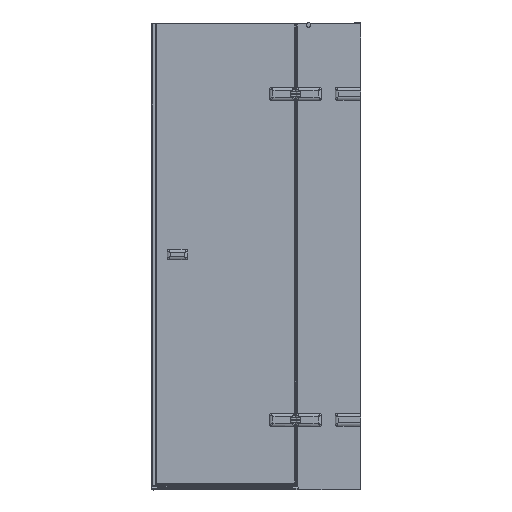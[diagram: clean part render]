
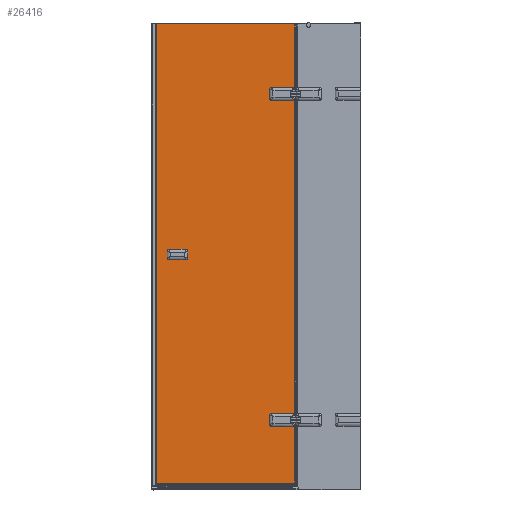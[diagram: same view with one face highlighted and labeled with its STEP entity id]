
A CAD part, front view. The second image highlights one B-rep face of the part: STEP entity #26416.
In plain terms, the highlighted planar face has unit normal (0, -1, 0).
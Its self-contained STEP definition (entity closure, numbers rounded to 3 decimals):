
#1628=PLANE($,#28638);
#2932=FACE_OUTER_BOUND($,#4538,.T.);
#4538=EDGE_LOOP($,(#22092,#22093,#22094,#22095,#22096,#22097,#22098,#22099,
#22100,#22101,#22102,#22103,#22104,#22105,#22106,#22107,#22108,#22109,#22110,
#22111));
#5093=CIRCLE($,#27224,5.);
#5130=CIRCLE($,#27299,5.);
#5132=CIRCLE($,#27303,5.);
#5134=CIRCLE($,#27307,5.);
#5262=CIRCLE($,#27658,5.);
#5263=CIRCLE($,#27660,5.);
#5303=CIRCLE($,#27739,5.);
#5305=CIRCLE($,#27743,5.);
#6219=LINE($,#52695,#8477);
#6223=LINE($,#52707,#8481);
#6227=LINE($,#52718,#8485);
#6300=LINE($,#53368,#8558);
#6666=LINE($,#54816,#8924);
#6670=LINE($,#54828,#8928);
#6674=LINE($,#54839,#8932);
#7305=LINE($,#58869,#9563);
#7595=LINE($,#59906,#9853);
#7640=LINE($,#60038,#9898);
#7697=LINE($,#60246,#9955);
#7698=LINE($,#60247,#9956);
#8477=VECTOR($,#30713,96.);
#8481=VECTOR($,#30725,42.);
#8485=VECTOR($,#30737,96.);
#8558=VECTOR($,#31054,1354.861);
#8924=VECTOR($,#32032,96.);
#8928=VECTOR($,#32044,42.);
#8932=VECTOR($,#32056,96.);
#9563=VECTOR($,#33891,252.83);
#9853=VECTOR($,#34557,277.43);
#9898=VECTOR($,#34688,598.747);
#9955=VECTOR($,#34865,1975.4);
#9956=VECTOR($,#34866,598.747);
#10805=VERTEX_POINT($,#52345);
#10807=VERTEX_POINT($,#52356);
#10922=VERTEX_POINT($,#52679);
#10923=VERTEX_POINT($,#52688);
#10925=VERTEX_POINT($,#52694);
#10927=VERTEX_POINT($,#52700);
#10929=VERTEX_POINT($,#52706);
#10931=VERTEX_POINT($,#52712);
#11011=VERTEX_POINT($,#53359);
#11254=VERTEX_POINT($,#54483);
#11256=VERTEX_POINT($,#54488);
#11257=VERTEX_POINT($,#54497);
#11369=VERTEX_POINT($,#54815);
#11371=VERTEX_POINT($,#54821);
#11373=VERTEX_POINT($,#54827);
#11375=VERTEX_POINT($,#54833);
#11998=VERTEX_POINT($,#58868);
#12220=VERTEX_POINT($,#59904);
#12264=VERTEX_POINT($,#60036);
#12305=VERTEX_POINT($,#60245);
#13355=EDGE_CURVE($,#10807,#10805,#5093,.T.);
#13517=EDGE_CURVE($,#10922,#10923,#5130,.T.);
#13520=EDGE_CURVE($,#10923,#10925,#6219,.T.);
#13523=EDGE_CURVE($,#10925,#10927,#5132,.T.);
#13526=EDGE_CURVE($,#10927,#10929,#6223,.T.);
#13529=EDGE_CURVE($,#10929,#10931,#5134,.T.);
#13532=EDGE_CURVE($,#10931,#10807,#6227,.T.);
#13676=EDGE_CURVE($,#11011,#10922,#6300,.T.);
#14049=EDGE_CURVE($,#11254,#11011,#5262,.T.);
#14051=EDGE_CURVE($,#11256,#11257,#5263,.T.);
#14211=EDGE_CURVE($,#11257,#11369,#6666,.T.);
#14214=EDGE_CURVE($,#11369,#11371,#5303,.T.);
#14217=EDGE_CURVE($,#11371,#11373,#6670,.T.);
#14220=EDGE_CURVE($,#11373,#11375,#5305,.T.);
#14223=EDGE_CURVE($,#11375,#11254,#6674,.T.);
#15184=EDGE_CURVE($,#10805,#11998,#7305,.T.);
#15550=EDGE_CURVE($,#12220,#11256,#7595,.T.);
#15618=EDGE_CURVE($,#12220,#12264,#7640,.T.);
#15699=EDGE_CURVE($,#12305,#12264,#7697,.T.);
#15700=EDGE_CURVE($,#11998,#12305,#7698,.T.);
#22092=ORIENTED_EDGE($,*,*,#13355,.F.);
#22093=ORIENTED_EDGE($,*,*,#13532,.F.);
#22094=ORIENTED_EDGE($,*,*,#13529,.F.);
#22095=ORIENTED_EDGE($,*,*,#13526,.F.);
#22096=ORIENTED_EDGE($,*,*,#13523,.F.);
#22097=ORIENTED_EDGE($,*,*,#13520,.F.);
#22098=ORIENTED_EDGE($,*,*,#13517,.F.);
#22099=ORIENTED_EDGE($,*,*,#13676,.F.);
#22100=ORIENTED_EDGE($,*,*,#14049,.F.);
#22101=ORIENTED_EDGE($,*,*,#14223,.F.);
#22102=ORIENTED_EDGE($,*,*,#14220,.F.);
#22103=ORIENTED_EDGE($,*,*,#14217,.F.);
#22104=ORIENTED_EDGE($,*,*,#14214,.F.);
#22105=ORIENTED_EDGE($,*,*,#14211,.F.);
#22106=ORIENTED_EDGE($,*,*,#14051,.F.);
#22107=ORIENTED_EDGE($,*,*,#15550,.F.);
#22108=ORIENTED_EDGE($,*,*,#15618,.T.);
#22109=ORIENTED_EDGE($,*,*,#15699,.F.);
#22110=ORIENTED_EDGE($,*,*,#15700,.F.);
#22111=ORIENTED_EDGE($,*,*,#15184,.F.);
#26416=ADVANCED_FACE($,(#2932),#1628,.F.);
#27224=AXIS2_PLACEMENT_3D($,#52358,#30436,#30437);
#27299=AXIS2_PLACEMENT_3D($,#52689,#30706,#30707);
#27303=AXIS2_PLACEMENT_3D($,#52701,#30718,#30719);
#27307=AXIS2_PLACEMENT_3D($,#52713,#30730,#30731);
#27658=AXIS2_PLACEMENT_3D($,#54485,#31756,#31757);
#27660=AXIS2_PLACEMENT_3D($,#54498,#31760,#31761);
#27739=AXIS2_PLACEMENT_3D($,#54822,#32037,#32038);
#27743=AXIS2_PLACEMENT_3D($,#54834,#32049,#32050);
#28638=AXIS2_PLACEMENT_3D($,#60244,#34863,#34864);
#30436=DIRECTION('center_axis',(0.,-1.,0.));
#30437=DIRECTION('ref_axis',(-1.,0.,0.));
#30706=DIRECTION('center_axis',(0.,-1.,0.));
#30707=DIRECTION('ref_axis',(0.,0.,
-1.));
#30713=DIRECTION($,(-1.,0.,0.));
#30718=DIRECTION('center_axis',(0.,-1.,0.));
#30719=DIRECTION('ref_axis',(1.,0.,0.));
#30725=DIRECTION($,(0.,0.,-1.));
#30730=DIRECTION('center_axis',(0.,-1.,0.));
#30731=DIRECTION('ref_axis',(0.,0.,
1.));
#30737=DIRECTION($,(1.,0.,0.));
#31054=DIRECTION($,(0.,0.,-1.));
#31756=DIRECTION('center_axis',(0.,-1.,0.));
#31757=DIRECTION('ref_axis',(-1.,0.,0.));
#31760=DIRECTION('center_axis',(0.,-1.,0.));
#31761=DIRECTION('ref_axis',(0.,0.,
-1.));
#32032=DIRECTION($,(-1.,0.,0.));
#32037=DIRECTION('center_axis',(0.,-1.,0.));
#32038=DIRECTION('ref_axis',(1.,0.,0.));
#32044=DIRECTION($,(0.,0.,-1.));
#32049=DIRECTION('center_axis',(0.,-1.,0.));
#32050=DIRECTION('ref_axis',(0.,0.,
1.));
#32056=DIRECTION($,(1.,0.,0.));
#33891=DIRECTION($,(0.,0.,-1.));
#34557=DIRECTION($,(0.,0.,-1.));
#34688=DIRECTION($,(-1.,0.,0.));
#34863=DIRECTION('center_axis',(0.,1.,0.));
#34864=DIRECTION('ref_axis',(-1.,0.,0.));
#34865=DIRECTION($,(0.,0.,1.));
#34866=DIRECTION($,(-1.,0.,0.));
#52345=CARTESIAN_POINT('',(2049.433,45.956,-236.625));
#52356=CARTESIAN_POINT('',(2044.686,45.956,-240.056));
#52358=CARTESIAN_POINT('Origin',(2044.686,45.956,-235.056));
#52679=CARTESIAN_POINT('',(2049.433,45.956,-191.486));
#52688=CARTESIAN_POINT('',(2044.686,45.956,-188.056));
#52689=CARTESIAN_POINT('Origin',(2044.686,45.956,-193.056));
#52694=CARTESIAN_POINT('',(1948.686,45.956,-188.056));
#52695=CARTESIAN_POINT($,(1999.686,45.956,-188.056));
#52700=CARTESIAN_POINT('',(1943.686,45.956,-193.056));
#52701=CARTESIAN_POINT('Origin',(1948.686,45.956,-193.056));
#52706=CARTESIAN_POINT('',(1943.686,45.956,-235.056));
#52707=CARTESIAN_POINT($,(1943.686,45.956,-364.556));
#52712=CARTESIAN_POINT('',(1948.686,45.956,-240.056));
#52713=CARTESIAN_POINT('Origin',(1948.686,45.956,-235.056));
#52718=CARTESIAN_POINT($,(2047.686,45.956,-240.056));
#53359=CARTESIAN_POINT('',(2049.433,45.956,1163.375));
#53368=CARTESIAN_POINT($,(2049.433,45.956,-202.056));
#54483=CARTESIAN_POINT('',(2044.686,45.956,1159.944));
#54485=CARTESIAN_POINT('Origin',(2044.686,45.956,1164.944));
#54488=CARTESIAN_POINT('',(2049.433,45.956,1208.514));
#54497=CARTESIAN_POINT('',(2044.686,45.956,1211.944));
#54498=CARTESIAN_POINT('Origin',(2044.686,45.956,1206.944));
#54815=CARTESIAN_POINT('',(1948.686,45.956,1211.944));
#54816=CARTESIAN_POINT($,(1999.686,45.956,1211.944));
#54821=CARTESIAN_POINT('',(1943.686,45.956,1206.944));
#54822=CARTESIAN_POINT('Origin',(1948.686,45.956,1206.944));
#54827=CARTESIAN_POINT('',(1943.686,45.956,1164.944));
#54828=CARTESIAN_POINT($,(1943.686,45.956,335.444));
#54833=CARTESIAN_POINT('',(1948.686,45.956,1159.944));
#54834=CARTESIAN_POINT('Origin',(1948.686,45.956,1164.944));
#54839=CARTESIAN_POINT($,(2047.686,45.956,1159.944));
#58868=CARTESIAN_POINT('',(2049.433,45.956,-489.456));
#58869=CARTESIAN_POINT($,(2049.433,45.956,-224.056));
#59904=CARTESIAN_POINT('',(2049.433,45.956,1485.944));
#59906=CARTESIAN_POINT($,(2049.433,45.956,1195.944));
#60036=CARTESIAN_POINT('',(1450.686,45.956,1485.944));
#60038=CARTESIAN_POINT($,(2050.686,45.956,1485.944));
#60244=CARTESIAN_POINT('Origin',(2050.686,45.956,-494.056));
#60245=CARTESIAN_POINT('',(1450.686,45.956,-489.456));
#60246=CARTESIAN_POINT($,(1450.686,45.956,-494.056));
#60247=CARTESIAN_POINT($,(2050.686,45.956,-489.456));
